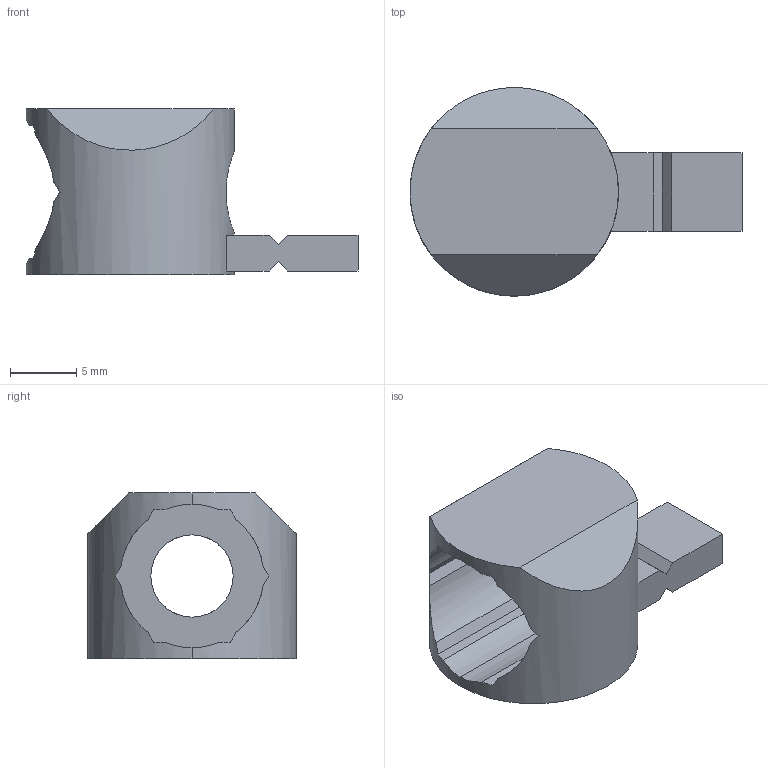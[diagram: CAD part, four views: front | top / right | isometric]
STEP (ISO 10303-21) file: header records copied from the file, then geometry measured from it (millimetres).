
FILE_DESCRIPTION(('STEP AP214'),'1');
FILE_NAME('C:/TPO v2/SharedFS/Outgoing/fath_099a0630.stp','2016-08-25T12:23:50',('TraceParts'),('TraceParts S.A.'),'Spatial InterOp 3D',' ',' ');
FILE_SCHEMA(('automotive_design'));
Length unit declared in the file: millimetre
Products named in the file (1): fath_099a0630
Bounding box: 25 x 15.7 x 12.5 mm (x, y, z)
Volume: 1476.5 mm3; surface area: 1481.4 mm2
Topology: 1 solids, 1 shells, 40 faces, 113 edges, 74 vertices
Faces by surface type: plane 28, cylinder 12
Entity records: 1746 total; most frequent: CARTESIAN_POINT 386, ORIENTED_EDGE 226, DIRECTION 199, EDGE_CURVE 113, VERTEX_POINT 74, LINE 69, VECTOR 69, AXIS2_PLACEMENT_3D 65
